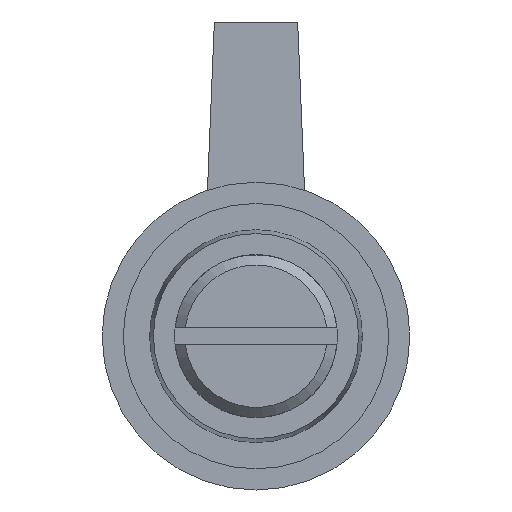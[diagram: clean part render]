
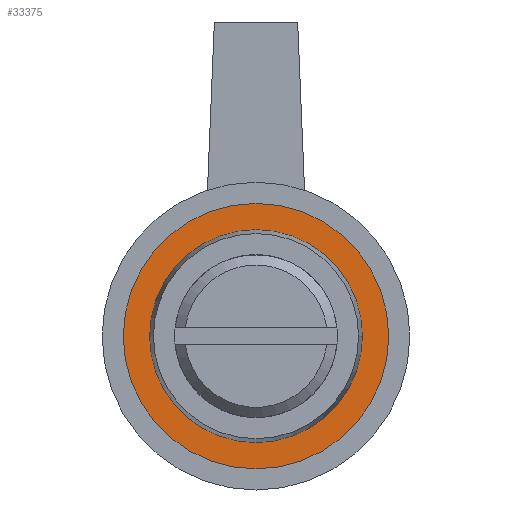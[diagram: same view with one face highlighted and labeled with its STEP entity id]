
A CAD part, front view. The second image highlights one B-rep face of the part: STEP entity #33375.
In plain terms, the highlighted planar face has unit normal (0, -1, 0) as drawn and (0, 0, 1) by its records, which use the part's own axes.
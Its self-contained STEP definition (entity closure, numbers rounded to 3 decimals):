
#33270=CARTESIAN_POINT('',(0.,0.,0.4));
#33271=DIRECTION('',(0.,0.,1.));
#33272=DIRECTION('',(1.,0.,0.));
#33273=AXIS2_PLACEMENT_3D('',#33270,#33271,#33272);
#33275=CARTESIAN_POINT('',(0.,0.,0.4));
#33276=DIRECTION('',(0.,0.,1.));
#33277=DIRECTION('',(-1.,0.,0.));
#33278=AXIS2_PLACEMENT_3D('',#33275,#33276,#33277);
#33280=CARTESIAN_POINT('',(0.,0.,0.4));
#33281=DIRECTION('',(0.,0.,-1.));
#33282=DIRECTION('',(1.,0.,0.));
#33283=AXIS2_PLACEMENT_3D('',#33280,#33281,#33282);
#33285=CARTESIAN_POINT('',(0.,0.,0.4));
#33286=DIRECTION('',(0.,0.,-1.));
#33287=DIRECTION('',(-1.,0.,0.));
#33288=AXIS2_PLACEMENT_3D('',#33285,#33286,#33287);
#33306=CARTESIAN_POINT('',(10.35,0.,0.4));
#33307=CARTESIAN_POINT('',(-10.35,0.,0.4));
#33308=VERTEX_POINT('',#33306);
#33309=VERTEX_POINT('',#33307);
#33310=CARTESIAN_POINT('',(7.1,0.,0.4));
#33311=CARTESIAN_POINT('',(-7.1,0.,0.4));
#33312=VERTEX_POINT('',#33310);
#33313=VERTEX_POINT('',#33311);
#33360=CARTESIAN_POINT('',(0.,0.,0.4));
#33361=DIRECTION('',(0.,0.,1.));
#33362=DIRECTION('',(1.,0.,0.));
#33363=AXIS2_PLACEMENT_3D('',#33360,#33361,#33362);
#33364=PLANE('',#33363);
#33365=ORIENTED_EDGE('',*,*,#33340,.F.);
#33366=ORIENTED_EDGE('',*,*,#33354,.F.);
#33367=EDGE_LOOP('',(#33365,#33366));
#33368=FACE_OUTER_BOUND('',#33367,.F.);
#33370=ORIENTED_EDGE('',*,*,#33369,.F.);
#33372=ORIENTED_EDGE('',*,*,#33371,.F.);
#33373=EDGE_LOOP('',(#33370,#33372));
#33374=FACE_BOUND('',#33373,.F.);
#33375=ADVANCED_FACE('',(#33368,#33374),#33364,.T.);
#33274=CIRCLE('',#33273,10.35);
#33279=CIRCLE('',#33278,10.35);
#33284=CIRCLE('',#33283,7.1);
#33289=CIRCLE('',#33288,7.1);
#33340=EDGE_CURVE('',#33308,#33309,#33274,.T.);
#33354=EDGE_CURVE('',#33309,#33308,#33279,.T.);
#33369=EDGE_CURVE('',#33312,#33313,#33284,.T.);
#33371=EDGE_CURVE('',#33313,#33312,#33289,.T.);
